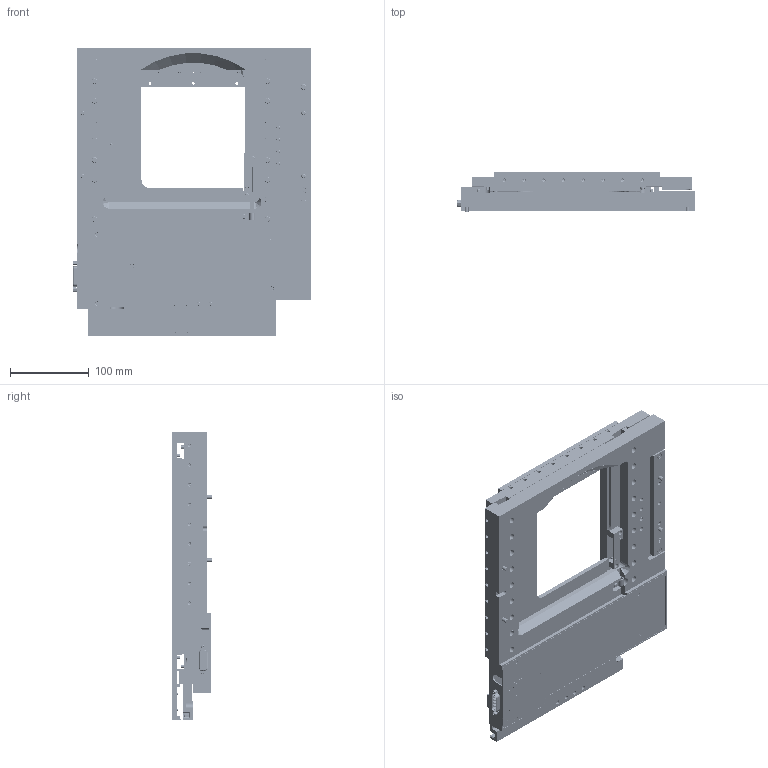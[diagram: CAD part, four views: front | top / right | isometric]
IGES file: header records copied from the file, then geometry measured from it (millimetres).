
Start section: SolidWorks IGES file using analytic representation for surfaces
Global section: file name: C:\1-DATA-FILES-FOR-PROJECTS\2022-PRODUCT-REFERENCE-MODELS\1-STAGE-REFERENCE-MODELS\HLD117\HLD117NN\2-HLD117NN-PARTS\HLD117NN_REFERENCE-IGES.IGS; native system: SolidWorks 2019; preprocessor: SolidWorks 2019; author: jwilliams; date: 220228.105348; units: inch
Bounding box: 302 x 51.01 x 366.01 mm (x, y, z)
Surface area: 642230.9 mm2 (no closed solid volume)
Topology: 0 solids, 0 shells, 5257 faces, 65801 edges, 65736 vertices
Faces by surface type: bspline 2953, revolution 2304
